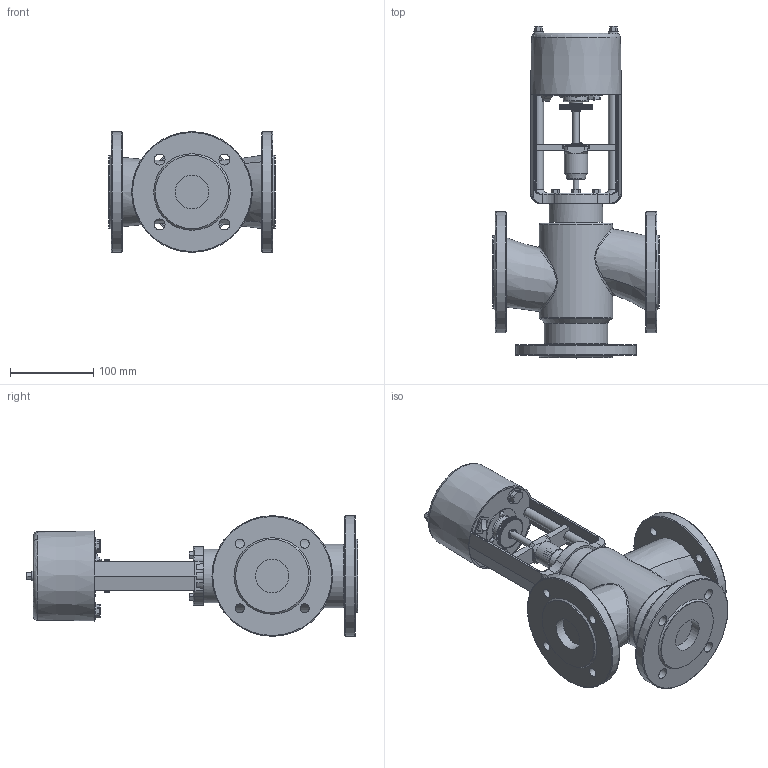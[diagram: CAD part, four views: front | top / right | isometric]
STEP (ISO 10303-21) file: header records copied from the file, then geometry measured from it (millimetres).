
FILE_DESCRIPTION(/* description */ (''),/* implementation_level */ '2;1');
FILE_NAME(/* name */ 'D:\Работа\work by\2017.01.17. клапаны для КПСР 3-хходоввые\Готовые файлы\ES 05\iges\ду 40.stp',/* time_stamp */ '2017-02-19T18:06:42+03:00',/* author */ ('Admin'),/* organization */ ('unknown'),/* preprocessor_version */ 'ST-DEVELOPER v16.1',/* originating_system */ 'Autodesk Inventor 2016',/* authorisation */ '');
FILE_SCHEMA (('AUTOMOTIVE_DESIGN { 1 0 10303 214 3 1 1 }'));
Products named in the file (1): ду 40
Bounding box: 200 x 398.95 x 145 mm (x, y, z)
Volume: 2252407.9 mm3; surface area: 337305.9 mm2
Topology: 2 solids, 2 shells, 1230 faces, 3409 edges, 2206 vertices
Faces by surface type: plane 564, cylinder 317, bspline 220, cone 66, torus 52, sphere 11
Full cylindrical faces by diameter (mm): 5.1 x4, 6 x3, 7 x4, 7.1 x1, 8 x3, 8.4 x1, 8.5 x2, 9.18 x1, 9.2 x1, 9.22 x1, 9.3 x1, 11 x9, 11.9 x1, 11.97 x1, 12 x6, 13 x4, 13.5 x1, 14 x2, 14.5 x1, 16 x3, 16.8 x1, 16.9 x1, 17.1 x1, 18 x2, 19.3 x1, 20 x3, 22 x1, 25.7 x4, 26 x1, 26.5 x1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
Entity records: 45333 total; most frequent: CARTESIAN_POINT 15996, ORIENTED_EDGE 6400, DIRECTION 5508, EDGE_CURVE 3197, VERTEX_POINT 2153, AXIS2_PLACEMENT_3D 1868, LINE 1772, VECTOR 1772
